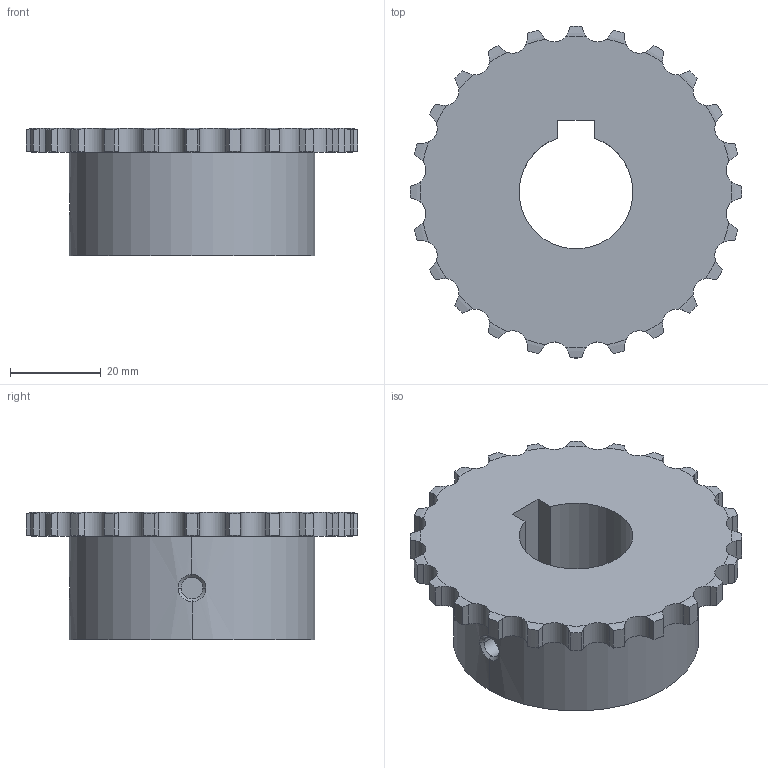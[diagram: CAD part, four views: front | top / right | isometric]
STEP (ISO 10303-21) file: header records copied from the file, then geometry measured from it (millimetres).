
FILE_DESCRIPTION((''),'2;1');
FILE_NAME('510-101-2524_PRT','2021-02-13T',('Brieden'),('Brieden'),'PRO/ENGINEER BY PARAMETRIC TECHNOLOGY CORPORATION, 2010160','PRO/ENGINEER BY PARAMETRIC TECHNOLOGY CORPORATION, 2010160','');
FILE_SCHEMA(('AUTOMOTIVE_DESIGN { 1 0 10303 214 1 1 1 1 }'));
Length unit declared in the file: millimetre
Products named in the file (1): 510-101-2524_PRT
Bounding box: 72.97 x 72.97 x 28 mm (x, y, z)
Volume: 57097.3 mm3; surface area: 14678.8 mm2
Topology: 1 solids, 1 shells, 164 faces, 477 edges, 316 vertices
Faces by surface type: cylinder 103, torus 48, plane 7, bspline 6
Entity records: 7960 total; most frequent: CARTESIAN_POINT 2390, ORIENTED_EDGE 954, DIRECTION 743, PRESENTATION_STYLE_ASSIGNMENT 478, STYLED_ITEM 478, CURVE_STYLE 477, EDGE_CURVE 477, VERTEX_POINT 316
